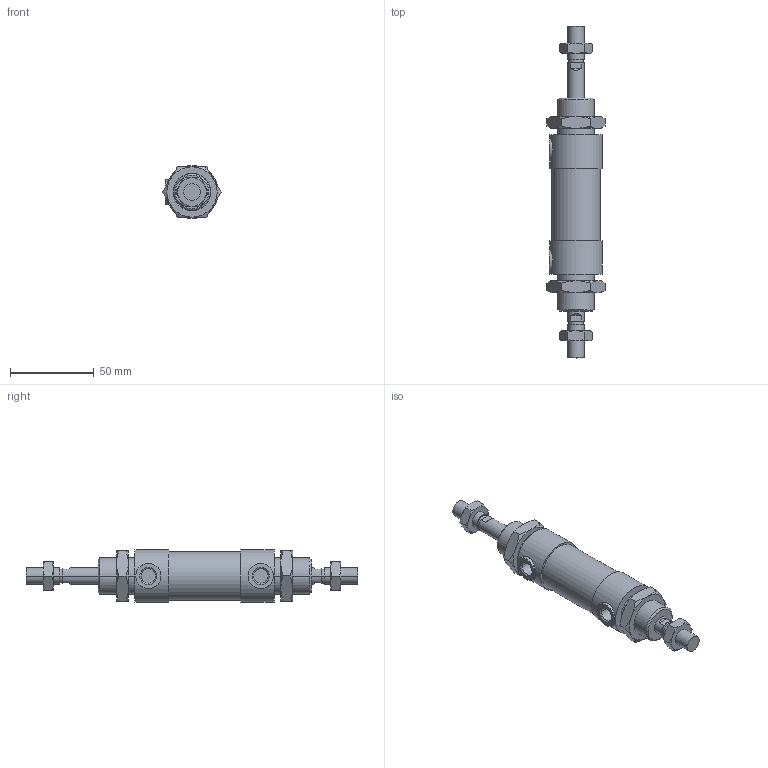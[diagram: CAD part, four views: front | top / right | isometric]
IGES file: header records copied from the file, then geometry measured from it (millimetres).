
Global section: file name: No Iges File Name specified; native system: AutoDesk Inventor R10; preprocessor: AutoDesk Inventor Iges Exporter R10; author: No Author specified; organization: No Organization specified; date: 20060105.143548; units: millimetre
Bounding box: 34.64 x 198 x 31.5 mm (x, y, z)
Volume: 89100.3 mm3; surface area: 29107.2 mm2
Topology: 6 solids, 6 shells, 185 faces, 397 edges, 232 vertices
Faces by surface type: cone 68, plane 62, cylinder 21, bspline 20, revolution 14
Full cylindrical faces by diameter (mm): 29 x1, 31.5 x2
